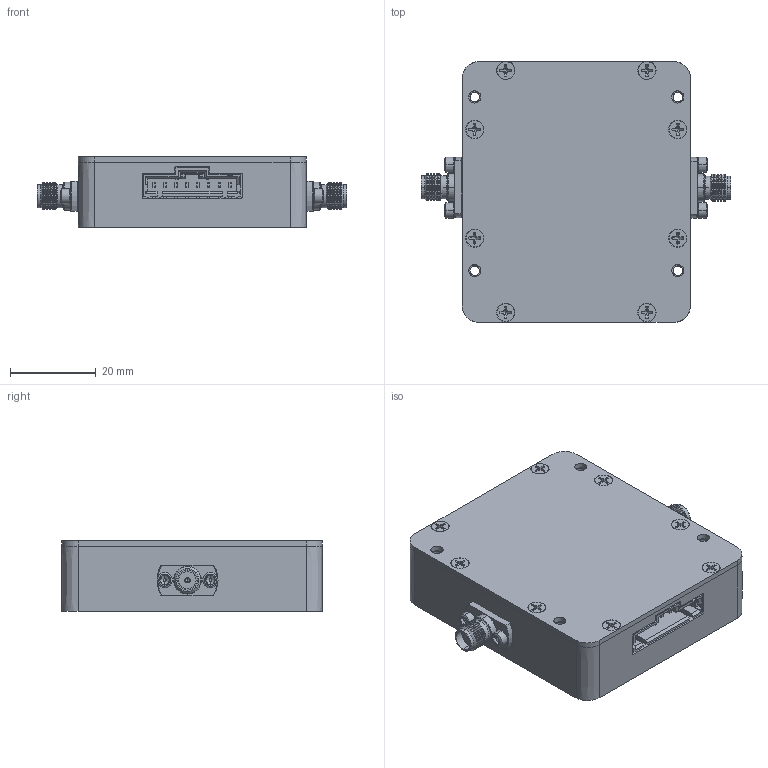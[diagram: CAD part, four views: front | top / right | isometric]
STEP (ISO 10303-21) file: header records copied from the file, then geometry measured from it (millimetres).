
FILE_DESCRIPTION(('FreeCAD Model'),'2;1');
FILE_NAME('C:/Users/Daniel/Dropbox (Atlanta Micro)/Designs/AM Modules/Custom Enclosures/Customer 3D Models/SPI Large Filter Module/SPI_LargeFilterModule_STEP.step','2022-07-12T16:15:56',('Author') ,(''),'Open CASCADE STEP processor 7.3','FreeCAD','Unknown');
FILE_SCHEMA(('AUTOMOTIVE_DESIGN { 1 0 10303 214 1 1 1 1 }'));
Length unit declared in the file: millimetre
Products named in the file (17): Phillips_Flat_Head_Screw_2-56_x_3-16in1_001; Socket_Head_2-56_x_3-16in1_002; Socket_Head_2-56_x_3-16in1_003; Socket_Head_2-56_x_3-16in1_001; ANO_212-931-15321_001; ANO_212-931-15321_002; Socket_Head_2-56_x_3-16in1_004; Phillips_Flat_Head_Screw_2-56_x_3-16in1_002; Phillips_Flat_Head_Screw_2-56_x_3-16in1_003; Phillips_Flat_Head_Screw_2-56_x_3-16in1_004; Phillips_Flat_Head_Screw_2-56_x_3-16in1_008; Phillips_Flat_Head_Screw_2-56_x_3-16in1_007; AMMET3172_Cover1_001; c-5-103634-7-z-3d1_001; Phillips_Flat_Head_Screw_2-56_x_3-16in1_005; Phillips_Flat_Head_Screw_2-56_x_3-16in1_006; AMMET31721_001
Bounding box: 72.46 x 60.99 x 16.54 mm (x, y, z)
Volume: 33128.2 mm3; surface area: 23578.1 mm2
Topology: 17 solids, 17 shells, 1717 faces, 4454 edges, 2842 vertices
Faces by surface type: plane 505, extrusion 475, cylinder 425, cone 244, bspline 44, torus 24
Full cylindrical faces by diameter (mm): 1.778 x16, 2.184 x8, 2.261 x4, 2.845 x4, 4.953 x2, 5.199 x1
Entity records: 159458 total; most frequent: CARTESIAN_POINT 66917, DIRECTION 12737, ORIENTED_EDGE 8844, PCURVE 8844, DEFINITIONAL_REPRESENTATION 8844, VECTOR 8627, LINE 8152, EDGE_CURVE 4422
